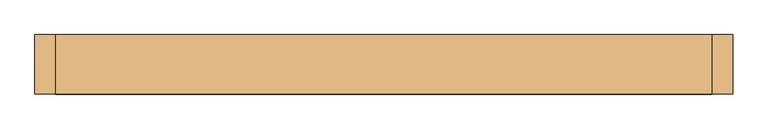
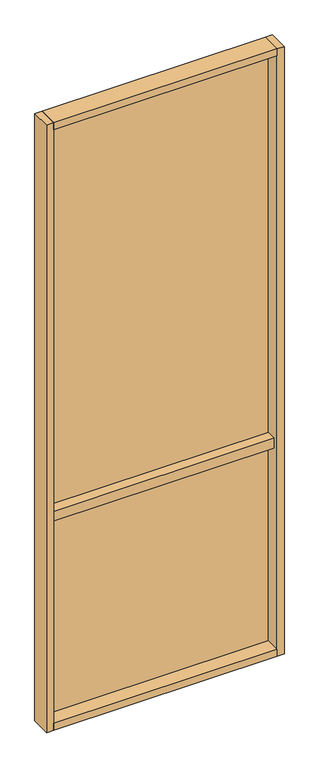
"""IFC4 building model written with IfcOpenShell, lengths in millimetres: door geometry, Mobiliário_Mobiliário de Escritório_Painel Lambri - ACML (Completo)_Marelli : ACML."""

from ifc_helpers import new_model, si_unit, frame, origin, origin_with_axes, place, context, project, spatial, polyline, outline, extrude, source, transform, mapped, element, save


def door_7a753f8f(model_context):
    return source(origin(), model_context, "Body", "SweptSolid", [
        extrude(outline(polyline([(470.0, 42.5), (470.0, -42.5), (-470.0, -42.5), (-470.0, 42.5), (470.0, 42.5)])), origin_with_axes(), (0.0, 0.0, 1.0), 30.0),
        extrude(outline(polyline([(470.0, 39.5), (470.0, 21.5), (-470.0, 21.5), (-470.0, 39.5), (470.0, 39.5)])), frame((0.0, 0.0, 30.0), z_axis=(0.0, 0.0, 1.0), x_axis=(1.0, 0.0, 0.0)), (0.0, 0.0, 1.0), 900.0),
        extrude(outline(polyline([(470.0, 21.5), (470.0, -21.5), (-470.0, -21.5), (-470.0, 21.5), (470.0, 21.5)])), frame((0.0, 0.0, 913.5), z_axis=(0.0, 0.0, 1.0), x_axis=(1.0, 0.0, 0.0)), (0.0, 0.0, 1.0), 43.0),
        extrude(outline(polyline([(470.0, 42.5), (470.0, -42.5), (-470.0, -42.5), (-470.0, 42.5), (470.0, 42.5)])), frame((0.0, 0.0, 2670.0), z_axis=(0.0, 0.0, 1.0), x_axis=(1.0, 0.0, 0.0)), (0.0, 0.0, 1.0), 30.0),
        extrude(outline(polyline([(-500.0, -42.5), (-500.0, 42.5), (-470.0, 42.5), (-470.0, -42.5), (-500.0, -42.5)])), origin_with_axes(), (0.0, 0.0, 1.0), 2700.0),
        extrude(outline(polyline([(500.0, -42.5), (470.0, -42.5), (470.0, 42.5), (500.0, 42.5), (500.0, -42.5)])), origin_with_axes(), (0.0, 0.0, 1.0), 2700.0),
        extrude(outline(polyline([(470.0, 39.5), (470.0, 21.5), (-470.0, 21.5), (-470.0, 39.5), (470.0, 39.5)])), frame((0.0, 0.0, 940.0), z_axis=(0.0, 0.0, 1.0), x_axis=(1.0, 0.0, 0.0)), (0.0, 0.0, 1.0), 1730.0),
    ])


if __name__ == "__main__":
    model = new_model("IFC4")
    model_context = context("Model", 3, world=origin())
    ifc_project = project(units=[si_unit("LENGTHUNIT", "METRE", prefix="MILLI")], contexts=[model_context])
    site = spatial("IfcSite", under=ifc_project)
    building = spatial("IfcBuilding", under=site)
    placement = place(None, origin())
    door_shape = door_7a753f8f(model_context)
    element("IfcDoor", 1, ObjectType="Mobiliário_Mobiliário de Escritório_Painel Lambri - ACML (Completo)_Marelli : ACML", at=placement, inside=building, context=model_context, shape_type="MappedRepresentation", body=[
        mapped(door_shape, transform((0.0, 0.0, 0.0), x_axis=(1.0, 0.0, 0.0), y_axis=(0.0, 1.0, 0.0), z_axis=(0.0, 0.0, 1.0))),
    ])
    save(model, "model.ifc")
